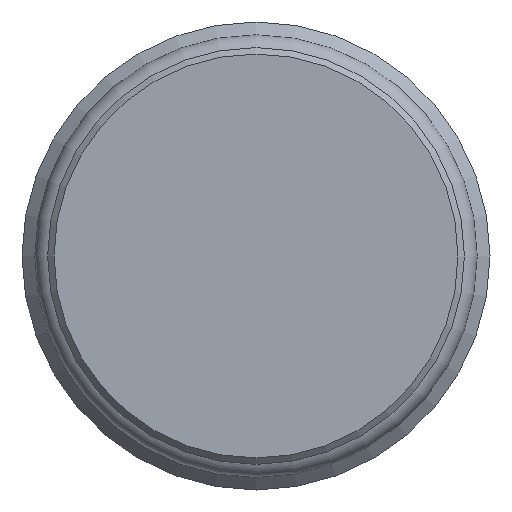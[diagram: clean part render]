
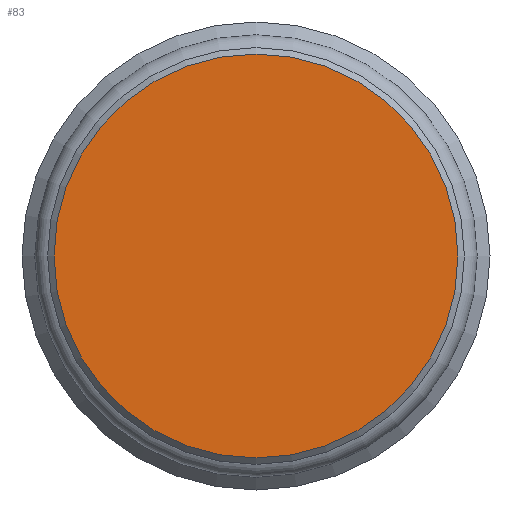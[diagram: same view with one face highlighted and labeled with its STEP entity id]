
A CAD part, left-side view. The second image highlights one B-rep face of the part: STEP entity #83.
In plain terms, the highlighted planar face has unit normal (-1, 0, 0).
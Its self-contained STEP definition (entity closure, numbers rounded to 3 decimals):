
#83 = ADVANCED_FACE( '', ( #186 ), #187, .F. );
#186 = FACE_OUTER_BOUND( '', #305, .T. );
#187 = PLANE( '', #306 );
#305 = EDGE_LOOP( '', ( #474 ) );
#306 = AXIS2_PLACEMENT_3D( '', #475, #476, #477 );
#474 = ORIENTED_EDGE( '', *, *, #649, .F. );
#475 = CARTESIAN_POINT( '', ( 0., 0., 0. ) );
#476 = DIRECTION( '', ( 1., 0., 0. ) );
#477 = DIRECTION( '', ( 0., 0., -1. ) );
#649 = EDGE_CURVE( '', #763, #763, #764, .T. );
#763 = VERTEX_POINT( '', #913 );
#764 = CIRCLE( '', #914, 3.15 );
#913 = CARTESIAN_POINT( '', ( 0., 0., -3.15 ) );
#914 = AXIS2_PLACEMENT_3D( '', #1019, #1020, #1021 );
#1019 = CARTESIAN_POINT( '', ( 0., 0., 0. ) );
#1020 = DIRECTION( '', ( 1., 0., 0. ) );
#1021 = DIRECTION( '', ( 0., 0., -1. ) );
